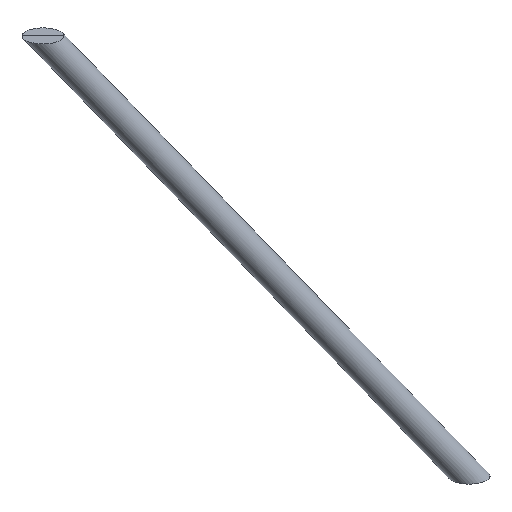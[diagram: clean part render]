
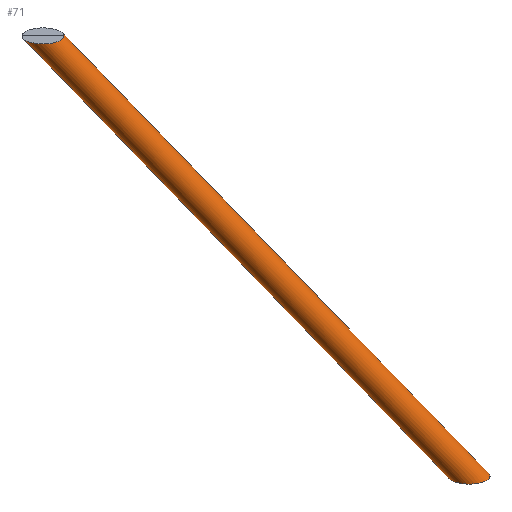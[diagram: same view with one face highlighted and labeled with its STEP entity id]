
A CAD part, top view. The second image highlights one B-rep face of the part: STEP entity #71.
In plain terms, the highlighted cylindrical face has radius 5 mm (diameter 10 mm), a full revolution.
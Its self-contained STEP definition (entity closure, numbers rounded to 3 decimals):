
#14=FACE_BOUND('',#26,.T.);
#15=CYLINDRICAL_SURFACE('',#94,5.);
#20=FACE_OUTER_BOUND('',#25,.T.);
#25=EDGE_LOOP('',(#53,#54));
#26=EDGE_LOOP('',(#55,#56));
#27=ELLIPSE('',#87,6.527,5.);
#28=ELLIPSE('',#89,6.527,5.);
#29=ELLIPSE('',#91,6.527,5.);
#30=ELLIPSE('',#93,6.527,5.);
#35=VERTEX_POINT('',#119);
#36=VERTEX_POINT('',#120);
#37=VERTEX_POINT('',#124);
#38=VERTEX_POINT('',#125);
#40=EDGE_CURVE('',#36,#35,#27,.T.);
#42=EDGE_CURVE('',#38,#37,#28,.T.);
#43=EDGE_CURVE('',#35,#36,#29,.T.);
#44=EDGE_CURVE('',#37,#38,#30,.T.);
#53=ORIENTED_EDGE('',*,*,#43,.T.);
#54=ORIENTED_EDGE('',*,*,#40,.T.);
#55=ORIENTED_EDGE('',*,*,#42,.T.);
#56=ORIENTED_EDGE('',*,*,#44,.T.);
#71=ADVANCED_FACE('',(#20,#14),#15,.T.);
#87=AXIS2_PLACEMENT_3D('',#122,#100,#101);
#89=AXIS2_PLACEMENT_3D('',#127,#105,#106);
#91=AXIS2_PLACEMENT_3D('',#129,#109,#110);
#93=AXIS2_PLACEMENT_3D('',#131,#113,#114);
#94=AXIS2_PLACEMENT_3D('',#132,#115,#116);
#100=DIRECTION('center_axis',(0.,0.866,0.5));
#101=DIRECTION('ref_axis',(-1.,0.,0.));
#105=DIRECTION('center_axis',(0.,-0.866,
-0.5));
#106=DIRECTION('ref_axis',(-1.,0.,0.));
#109=DIRECTION('center_axis',(0.,0.866,0.5));
#110=DIRECTION('ref_axis',(-1.,0.,0.));
#113=DIRECTION('center_axis',(0.,-0.866,
-0.5));
#114=DIRECTION('ref_axis',(-1.,0.,0.));
#115=DIRECTION('center_axis',(-0.643,0.663,0.383));
#116=DIRECTION('ref_axis',(-0.766,-0.557,-0.321));
#119=CARTESIAN_POINT('',(519.224,13.856,-182.));
#120=CARTESIAN_POINT('',(506.17,13.856,-182.));
#122=CARTESIAN_POINT('Origin',(512.697,13.856,-182.));
#124=CARTESIAN_POINT('',(386.646,150.688,-103.));
#125=CARTESIAN_POINT('',(373.592,150.688,-103.));
#127=CARTESIAN_POINT('Origin',(380.119,150.688,-103.));
#129=CARTESIAN_POINT('Origin',(512.697,13.856,-182.));
#131=CARTESIAN_POINT('Origin',(380.119,150.688,-103.));
#132=CARTESIAN_POINT('Origin',(446.408,82.272,-142.5));
